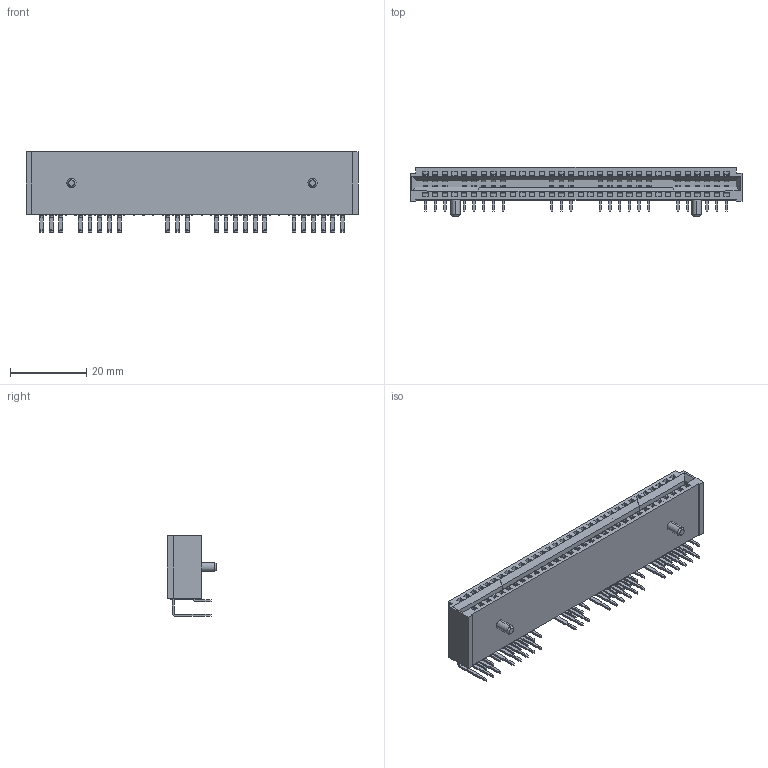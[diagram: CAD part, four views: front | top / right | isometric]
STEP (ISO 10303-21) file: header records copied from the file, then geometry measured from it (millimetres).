
FILE_DESCRIPTION (( 'STEP AP214' ), '1' );
FILE_NAME ('9393-J41P64P21AC05DA-A002.STEP', '2017-03-27T02:07:59', ( 'admin' ), ( '' ), 'SwSTEP 2.0', 'SolidWorks 2011', '' );
FILE_SCHEMA (( 'AUTOMOTIVE_DESIGN' ));
Length unit declared in the file: millimetre
Products named in the file (4): 9393-JL41P61-A002-h_1; 9393-JL41P61-A002-s_Default_1; 9393-JL41P61-A002-l_Default_1; 9393-J41P64P21AC05DA-A002
Assembly tree (47 placements, depth 2):
  9393-J41P64P21AC05DA-A002
    9393-JL41P61-A002-l_Default_1  x23
    9393-JL41P61-A002-s_Default_1  x23
    9393-JL41P61-A002-h_1
Bounding box: 86.82 x 12.83 x 21.11 mm (x, y, z)
Volume: 8334.4 mm3; surface area: 13973.8 mm2
Topology: 93 solids, 93 shells, 3437 faces, 9555 edges, 6274 vertices
Faces by surface type: plane 2158, cylinder 1275, cone 4
Entity records: 43314 total; most frequent: CARTESIAN_POINT 5952, ORIENTED_EDGE 5778, DIRECTION 5285, EDGE_CURVE 2889, VECTOR 2399, LINE 2399, VERTEX_POINT 1918, AXIS2_PLACEMENT_3D 1443
